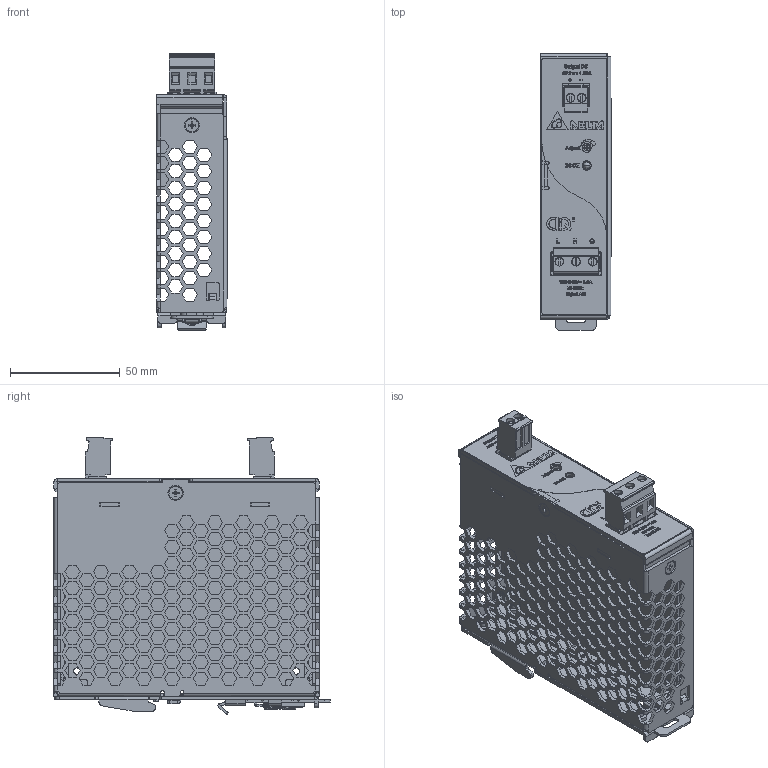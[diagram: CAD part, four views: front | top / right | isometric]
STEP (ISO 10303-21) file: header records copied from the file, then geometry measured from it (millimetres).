
FILE_DESCRIPTION((''),'2;1');
FILE_NAME('DRP048V060W1BA_ASM','2012-05-14T',('Manop.Pr'),(''),'PRO/ENGINEER BY PARAMETRIC TECHNOLOGY CORPORATION, 2010180','PRO/ENGINEER BY PARAMETRIC TECHNOLOGY CORPORATION, 2010180','');
FILE_SCHEMA(('CONFIG_CONTROL_DESIGN','SHAPE_APPEARANCE_LAYERS_GROUPS'));
Products named in the file (27): 330305910000; 330305910000_A_STUD; 330305910000_ASM; 330305900000; 326354610101; 3268209100; 3202315200; 331067900101; 346008810000; 346202620000; ASSY_LATCH_31X120_ASM; 2958050100_PWB; 2958041402_ASM; 2968109703_DCT-1097_AF0; 2968109703_DCT-1097_ASM; 3071616046; 3050252046; 3070487646; 3051626946; ASSY_DCT-1097_ASM; 3122016400_LED-HOLDER; EE_LED350; ASSY_LED350_ASM; EE_VR-ADJ; ASSY_PWB_MAIN_ASM; 3103000601; DRP048V060W1BA_ASM
Assembly tree (35 placements, depth 5):
  DRP048V060W1BA_ASM
    330305910000_ASM
      330305910000
      330305910000_A_STUD  x4
    330305900000
    326354610101
    3268209100
    3202315200
    ASSY_LATCH_31X120_ASM
      331067900101
      346008810000
      346202620000
    ASSY_PWB_MAIN_ASM
      2958041402_ASM
        2958050100_PWB
      ASSY_DCT-1097_ASM
        2968109703_DCT-1097_ASM
          2968109703_DCT-1097_AF0
        3071616046
        3050252046
        3070487646
        3051626946
      ASSY_LED350_ASM
        3122016400_LED-HOLDER
        EE_LED350
      EE_VR-ADJ
    3103000601  x7
Bounding box: 32.1 x 126 x 126.24 mm (x, y, z)
Volume: 80113.3 mm3; surface area: 128676.6 mm2
Topology: 29 solids, 29 shells, 4786 faces, 12873 edges, 8245 vertices
Faces by surface type: plane 3455, extrusion 619, cylinder 509, bspline 96, cone 89, torus 16, sphere 2
Entity records: 187853 total; most frequent: CARTESIAN_POINT 37439, ORIENTED_EDGE 24330, DIRECTION 20161, PRESENTATION_STYLE_ASSIGNMENT 12313, STYLED_ITEM 12185, CURVE_STYLE 12165, EDGE_CURVE 12165, VECTOR 10411
